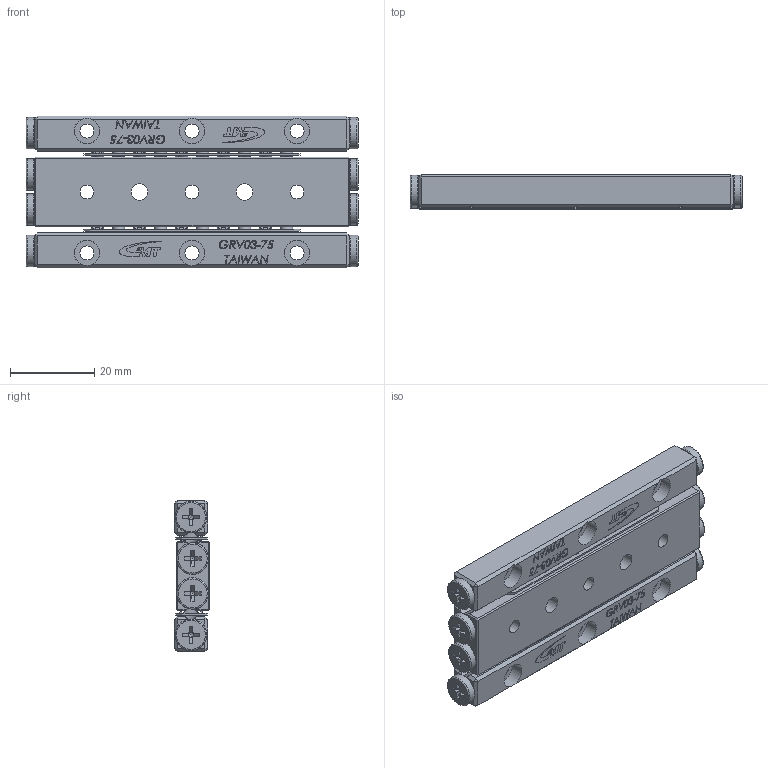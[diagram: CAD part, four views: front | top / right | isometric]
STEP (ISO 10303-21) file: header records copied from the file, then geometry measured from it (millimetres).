
FILE_DESCRIPTION (( 'STEP AP203' ), '1' );
FILE_NAME ('GRD03-75.STEP', '2023-10-24T05:08:47', ( '' ), ( '' ), 'SwSTEP 2.0', 'SolidWorks 2019', '' );
FILE_SCHEMA (( 'CONFIG_CONTROL_DESIGN' ));
Length unit declared in the file: millimetre
Products named in the file (4): GRD03-75; GRD03-75-模糊化中軌; GRV03-75-模糊化軌道; GRV03-75-模糊化保持器組
Assembly tree (5 placements, depth 2):
  GRD03-75
    GRD03-75-模糊化中軌
    GRV03-75-模糊化軌道  x2
    GRV03-75-模糊化保持器組  x2
Bounding box: 79 x 8.5 x 36 mm (x, y, z)
Volume: 18869.6 mm3; surface area: 13092 mm2
Topology: 5 solids, 5 shells, 1444 faces, 3579 edges, 2298 vertices
Faces by surface type: plane 1075, bspline 171, cone 72, cylinder 70, torus 56
Full cylindrical faces by diameter (mm): 3.3 x3, 3.35 x6, 4 x2, 6 x9, 7.5 x8
Entity records: 33203 total; most frequent: CARTESIAN_POINT 11965, ORIENTED_EDGE 4486, DIRECTION 3734, EDGE_CURVE 2243, VECTOR 1614, LINE 1614, VERTEX_POINT 1451, EDGE_LOOP 1070
